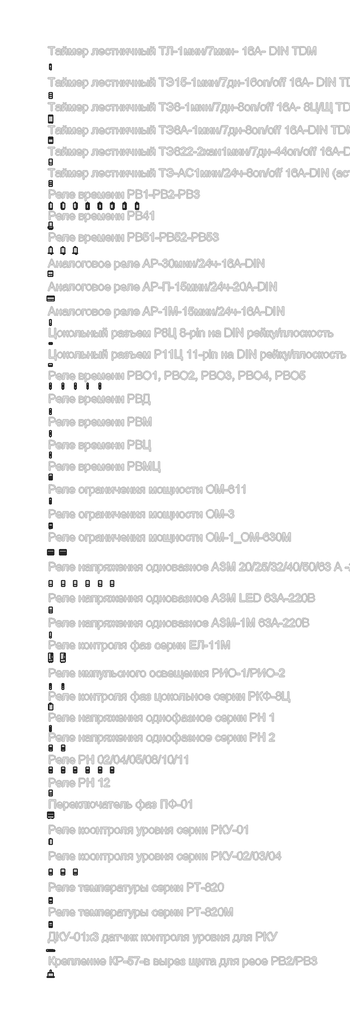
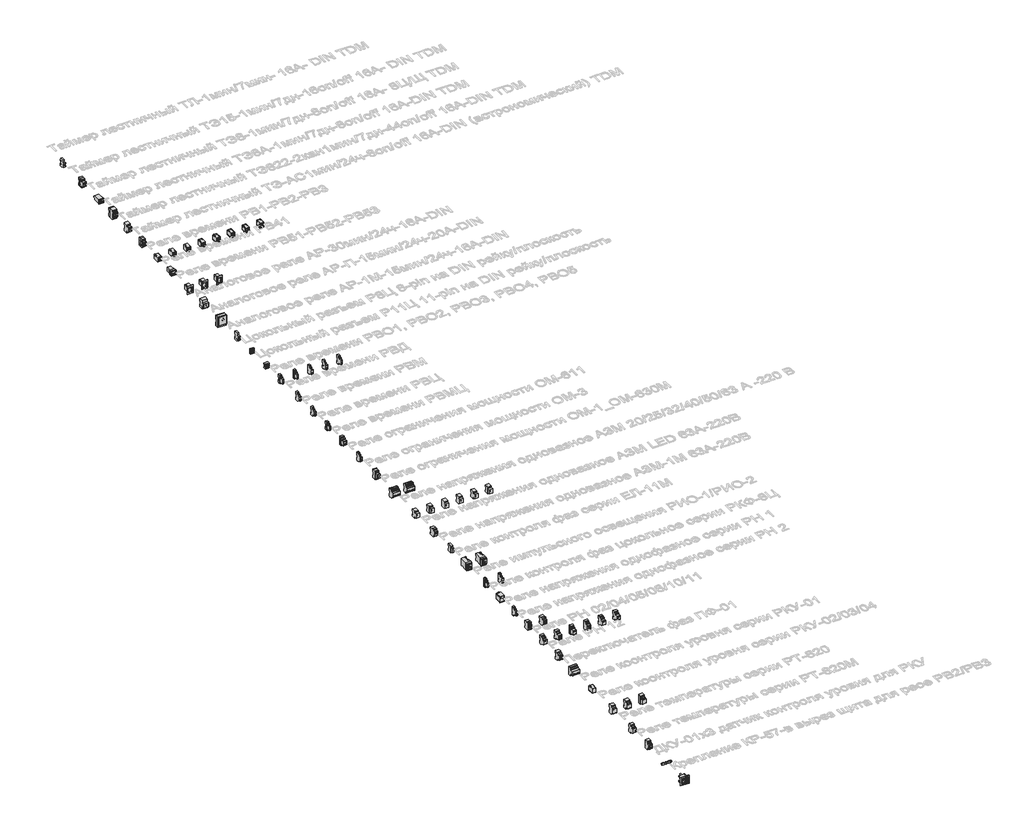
# One storey, part 1 of 34: 68 proxies.
"""IFC4 building model written with IfcOpenShell, lengths in millimetres."""

from ifc_helpers import new_model, si_unit, origin, place, context, project, spatial, transform, mapped, element, save
from components import electrical_equipment_74a98d71, electrical_equipment_58bb5a1a, electrical_equipment_3ce51de6, electrical_equipment_21c6b45f, electrical_equipment_c476cc4e, electrical_equipment_de6e29d4, electrical_equipment_126dbba9, electrical_equipment_08aeb7cd, electrical_equipment_bfa7a710, electrical_equipment_4113cb17, electrical_equipment_c9d6e839, electrical_equipment_f1d633d0, electrical_equipment_dc27a591, electrical_equipment_d9e2468f, electrical_equipment_b765c095, electrical_equipment_60f263af, electrical_equipment_a8593c03, electrical_equipment_917988b0, electrical_equipment_2618eebc, electrical_equipment_f3651a05, electrical_equipment_9e60928d, electrical_equipment_1063454b, electrical_equipment_ff696aed, electrical_equipment_52fcec72, electrical_equipment_77e1bf72, electrical_equipment_0d89e3ab, electrical_equipment_bae947ff, electrical_equipment_3d8fc4e4, electrical_equipment_8167011e, electrical_equipment_303be9ae, electrical_equipment_389d0776, electrical_equipment_ac6f2588, electrical_equipment_624e8b7a, proxy_11_pin_c977f3df, proxy_11_pin_421f2a57, proxy_16a_e966da29, proxy_16a_c5acf722, proxy_16a_1f5f70fe, proxy_16a_57aace03, proxy_16a_1d34f174, proxy_16a_368d971a, proxy_20a_6020814e, proxy_8_pin_44236fb1

model = new_model("IFC4")

# Units and contexts
model_context = context("Model", 3, world=origin())
ifc_project = project(units=[si_unit("LENGTHUNIT", "METRE", prefix="MILLI")], contexts=[model_context])

# Site, building, storey
site = spatial("IfcSite", under=ifc_project)
building = spatial("IfcBuilding", under=site)
storey = spatial("IfcBuildingStorey", under=building, Name="Этаж 01", Elevation=0.0)

# Proxies
placement = place(None, origin())
electrical_equipment_shape = electrical_equipment_74a98d71(model_context)
element("IfcBuildingElementProxy", 1, Name="TDM_ТАЙМЕР ЭЛЕКТРОННЫЕ ДВУХКАНАЛЬНЫЙ ТЭ822 : 2х16A", ObjectType="TDM_ТАЙМЕР ЭЛЕКТРОННЫЕ ДВУХКАНАЛЬНЫЙ ТЭ822 : 2х16A", at=placement, inside=storey, context=model_context, shape_type="MappedRepresentation", body=[
    mapped(electrical_equipment_shape, transform((-19020.4530788, 17233.1160902, 0.0), x_axis=(1.0, 0.0, 0.0), y_axis=(0.0, 1.0, 0.0), z_axis=(0.0, 0.0, 1.0))),
])
electrical_equipment_2_shape = electrical_equipment_58bb5a1a(model_context)
element("IfcBuildingElementProxy", 2, Name="TDM_РЕЛЕ ВРЕМЕНИ ЦОКОЛЬНЫЙ СЕРИИ РВ1-РВ2-РВ3 : РВ1А-2 реж-1сек/10 мин -5 А-220 В-8Ц", ObjectType="TDM_РЕЛЕ ВРЕМЕНИ ЦОКОЛЬНЫЙ СЕРИИ РВ1-РВ2-РВ3 : РВ1А-2 реж-1сек/10 мин -5 А-220 В-8Ц", at=placement, inside=storey, context=model_context, shape_type="MappedRepresentation", body=[
    mapped(electrical_equipment_2_shape, transform((-19020.4530788, 16703.2738798, 0.0), x_axis=(1.0, 0.0, 0.0), y_axis=(0.0, 1.0, 0.0), z_axis=(0.0, 0.0, 1.0))),
])
element("IfcBuildingElementProxy", 3, Name="TDM_РЕЛЕ ВРЕМЕНИ ЦОКОЛЬНЫЙ СЕРИИ РВ1-РВ2-РВ3 : РВ1С-2 реж-6сек/60 мин -5 А-220 В-8Ц", ObjectType="TDM_РЕЛЕ ВРЕМЕНИ ЦОКОЛЬНЫЙ СЕРИИ РВ1-РВ2-РВ3 : РВ1С-2 реж-6сек/60 мин -5 А-220 В-8Ц", at=placement, inside=storey, context=model_context, shape_type="MappedRepresentation", body=[
    mapped(electrical_equipment_2_shape, transform((-18720.4530788, 16703.2738798, 0.0), x_axis=(1.0, 0.0, 0.0), y_axis=(0.0, 1.0, 0.0), z_axis=(0.0, 0.0, 1.0))),
])
element("IfcBuildingElementProxy", 4, Name="TDM_РЕЛЕ ВРЕМЕНИ ЦОКОЛЬНЫЙ СЕРИИ РВ1-РВ2-РВ3 : РВ1Е-2 реж-3сек/30 мин -5 А-220 В-8Ц", ObjectType="TDM_РЕЛЕ ВРЕМЕНИ ЦОКОЛЬНЫЙ СЕРИИ РВ1-РВ2-РВ3 : РВ1Е-2 реж-3сек/30 мин -5 А-220 В-8Ц", at=placement, inside=storey, context=model_context, shape_type="MappedRepresentation", body=[
    mapped(electrical_equipment_2_shape, transform((-18870.4530788, 16703.2738798, 0.0), x_axis=(1.0, 0.0, 0.0), y_axis=(0.0, 1.0, 0.0), z_axis=(0.0, 0.0, 1.0))),
])
electrical_equipment_3_shape = electrical_equipment_3ce51de6(model_context)
element("IfcBuildingElementProxy", 5, Name="TDM_РЕЛЕ ВРЕМЕНИ ЦОКОЛЬНЫЙ СЕРИИ РВ1-РВ2-РВ3 : РВ2А-0.5 сек/3 мин -5 А-220 В-8Ц", ObjectType="TDM_РЕЛЕ ВРЕМЕНИ ЦОКОЛЬНЫЙ СЕРИИ РВ1-РВ2-РВ3 : РВ2А-0.5 сек/3 мин -5 А-220 В-8Ц", at=placement, inside=storey, context=model_context, shape_type="MappedRepresentation", body=[
    mapped(electrical_equipment_3_shape, transform((-18270.4530788, 16703.2738798, 0.0), x_axis=(1.0, 0.0, 0.0), y_axis=(0.0, 1.0, 0.0), z_axis=(0.0, 0.0, 1.0))),
])
element("IfcBuildingElementProxy", 6, Name="TDM_РЕЛЕ ВРЕМЕНИ ЦОКОЛЬНЫЙ СЕРИИ РВ1-РВ2-РВ3 : РВ2D-10 сек/60 мин -5 А-220 В-8Ц", ObjectType="TDM_РЕЛЕ ВРЕМЕНИ ЦОКОЛЬНЫЙ СЕРИИ РВ1-РВ2-РВ3 : РВ2D-10 сек/60 мин -5 А-220 В-8Ц", at=placement, inside=storey, context=model_context, shape_type="MappedRepresentation", body=[
    mapped(electrical_equipment_3_shape, transform((-18570.4530788, 16703.2738798, 0.0), x_axis=(1.0, 0.0, 0.0), y_axis=(0.0, 1.0, 0.0), z_axis=(0.0, 0.0, 1.0))),
])
element("IfcBuildingElementProxy", 7, Name="TDM_РЕЛЕ ВРЕМЕНИ ЦОКОЛЬНЫЙ СЕРИИ РВ1-РВ2-РВ3 : РВ2G-4 мин/24 час -5 А-220 В-8Ц", ObjectType="TDM_РЕЛЕ ВРЕМЕНИ ЦОКОЛЬНЫЙ СЕРИИ РВ1-РВ2-РВ3 : РВ2G-4 мин/24 час -5 А-220 В-8Ц", at=placement, inside=storey, context=model_context, shape_type="MappedRepresentation", body=[
    mapped(electrical_equipment_3_shape, transform((-18420.4530788, 16703.2738798, 0.0), x_axis=(1.0, 0.0, 0.0), y_axis=(0.0, 1.0, 0.0), z_axis=(0.0, 0.0, 1.0))),
])
element("IfcBuildingElementProxy", 8, Name="TDM_РЕЛЕ ВРЕМЕНИ ЦОКОЛЬНЫЙ СЕРИИ РВ1-РВ2-РВ3 : РВ3А-0.5 сек/3 мин -5 А-24/220 В-8Ц", ObjectType="TDM_РЕЛЕ ВРЕМЕНИ ЦОКОЛЬНЫЙ СЕРИИ РВ1-РВ2-РВ3 : РВ3А-0.5 сек/3 мин -5 А-24/220 В-8Ц", at=placement, inside=storey, context=model_context, shape_type="MappedRepresentation", body=[
    mapped(electrical_equipment_3_shape, transform((-17970.4530788, 16703.2738798, 0.0), x_axis=(1.0, 0.0, 0.0), y_axis=(0.0, 1.0, 0.0), z_axis=(0.0, 0.0, 1.0))),
])
element("IfcBuildingElementProxy", 9, Name="TDM_РЕЛЕ ВРЕМЕНИ ЦОКОЛЬНЫЙ СЕРИИ РВ1-РВ2-РВ3 : РВ3G-4 мин/24 час -5 А-24/220 В-8Ц", ObjectType="TDM_РЕЛЕ ВРЕМЕНИ ЦОКОЛЬНЫЙ СЕРИИ РВ1-РВ2-РВ3 : РВ3G-4 мин/24 час -5 А-24/220 В-8Ц", at=placement, inside=storey, context=model_context, shape_type="MappedRepresentation", body=[
    mapped(electrical_equipment_3_shape, transform((-18120.4530788, 16703.2738798, 0.0), x_axis=(1.0, 0.0, 0.0), y_axis=(0.0, 1.0, 0.0), z_axis=(0.0, 0.0, 1.0))),
])
electrical_equipment_4_shape = electrical_equipment_21c6b45f(model_context)
element("IfcBuildingElementProxy", 10, Name="TDM_РЕЛЕ ВРЕМЕНИ ЦОКОЛЬНЫЙ СЕРИИ РВ41 : РВ41-0.1-сек/9990 час -5 А-220 В-8Ц/Щ", ObjectType="TDM_РЕЛЕ ВРЕМЕНИ ЦОКОЛЬНЫЙ СЕРИИ РВ41 : РВ41-0.1-сек/9990 час -5 А-220 В-8Ц/Щ", at=placement, inside=storey, context=model_context, shape_type="MappedRepresentation", body=[
    mapped(electrical_equipment_4_shape, transform((-19020.4530788, 16469.8594848, 0.0), x_axis=(1.0, 0.0, 0.0), y_axis=(0.0, 1.0, 0.0), z_axis=(0.0, 0.0, 1.0))),
])
electrical_equipment_5_shape = electrical_equipment_c476cc4e(model_context)
element("IfcBuildingElementProxy", 11, Name="TDM_РЕЛЕ ВРЕМЕНИ ЦОКОЛЬНЫЙ СЕРИИ РВ51-РВ52-РВ53 : РВ51-2Т-60х60 сек -5 А-220 В-8Ц/Щ", ObjectType="TDM_РЕЛЕ ВРЕМЕНИ ЦОКОЛЬНЫЙ СЕРИИ РВ51-РВ52-РВ53 : РВ51-2Т-60х60 сек -5 А-220 В-8Ц/Щ", at=placement, inside=storey, context=model_context, shape_type="MappedRepresentation", body=[
    mapped(electrical_equipment_5_shape, transform((-19020.4530788, 16163.2516151, 0.0), x_axis=(1.0, 0.0, 0.0), y_axis=(0.0, 1.0, 0.0), z_axis=(0.0, 0.0, 1.0))),
])
element("IfcBuildingElementProxy", 12, Name="TDM_РЕЛЕ ВРЕМЕНИ ЦОКОЛЬНЫЙ СЕРИИ РВ51-РВ52-РВ53 : РВ52-2Т-6х6 мин -5 А-220 В-8Ц/Щ", ObjectType="TDM_РЕЛЕ ВРЕМЕНИ ЦОКОЛЬНЫЙ СЕРИИ РВ51-РВ52-РВ53 : РВ52-2Т-6х6 мин -5 А-220 В-8Ц/Щ", at=placement, inside=storey, context=model_context, shape_type="MappedRepresentation", body=[
    mapped(electrical_equipment_5_shape, transform((-18870.4530788, 16163.2516151, 0.0), x_axis=(1.0, 0.0, 0.0), y_axis=(0.0, 1.0, 0.0), z_axis=(0.0, 0.0, 1.0))),
])
element("IfcBuildingElementProxy", 13, Name="TDM_РЕЛЕ ВРЕМЕНИ ЦОКОЛЬНЫЙ СЕРИИ РВ51-РВ52-РВ53 : РВ53-2Т-60х60 мин -5 А-220 В-8Ц/Щ", ObjectType="TDM_РЕЛЕ ВРЕМЕНИ ЦОКОЛЬНЫЙ СЕРИИ РВ51-РВ52-РВ53 : РВ53-2Т-60х60 мин -5 А-220 В-8Ц/Щ", at=placement, inside=storey, context=model_context, shape_type="MappedRepresentation", body=[
    mapped(electrical_equipment_5_shape, transform((-18720.4530788, 16163.2516151, 0.0), x_axis=(1.0, 0.0, 0.0), y_axis=(0.0, 1.0, 0.0), z_axis=(0.0, 0.0, 1.0))),
])
electrical_equipment_6_shape = electrical_equipment_de6e29d4(model_context)
element("IfcBuildingElementProxy", 14, Name="TDM_РЕЛЕ ВРЕМЕНИ НА DIN-РЕЙКУ СЕРИИ РВО1_РВО2_РВО3_РВО4_РВО5 : РВО1 0.1с/10дн 8А 12-230 AC/DC", ObjectType="TDM_РЕЛЕ ВРЕМЕНИ НА DIN-РЕЙКУ СЕРИИ РВО1_РВО2_РВО3_РВО4_РВО5 : РВО1 0.1с/10дн 8А 12-230 AC/DC", at=placement, inside=storey, context=model_context, shape_type="MappedRepresentation", body=[
    mapped(electrical_equipment_6_shape, transform((-19020.4530788, 14510.2851267, 0.0), x_axis=(1.0, 0.0, 0.0), y_axis=(0.0, 1.0, 0.0), z_axis=(0.0, 0.0, 1.0))),
])
electrical_equipment_7_shape = electrical_equipment_126dbba9(model_context)
element("IfcBuildingElementProxy", 15, Name="TDM_РЕЛЕ ВРЕМЕНИ НА DIN-РЕЙКУ СЕРИИ РВО1_РВО2_РВО3_РВО4_РВО5 : РВО2 0.6с/60сек 8А 24/230 AC/DC", ObjectType="TDM_РЕЛЕ ВРЕМЕНИ НА DIN-РЕЙКУ СЕРИИ РВО1_РВО2_РВО3_РВО4_РВО5 : РВО2 0.6с/60сек 8А 24/230 AC/DC", at=placement, inside=storey, context=model_context, shape_type="MappedRepresentation", body=[
    mapped(electrical_equipment_7_shape, transform((-18870.4530788, 14510.2851267, 0.0), x_axis=(1.0, 0.0, 0.0), y_axis=(0.0, 1.0, 0.0), z_axis=(0.0, 0.0, 1.0))),
])
element("IfcBuildingElementProxy", 16, Name="TDM_РЕЛЕ ВРЕМЕНИ НА DIN-РЕЙКУ СЕРИИ РВО1_РВО2_РВО3_РВО4_РВО5 : РВО3 0.1с/10дн 8А 24/230 AC/DC", ObjectType="TDM_РЕЛЕ ВРЕМЕНИ НА DIN-РЕЙКУ СЕРИИ РВО1_РВО2_РВО3_РВО4_РВО5 : РВО3 0.1с/10дн 8А 24/230 AC/DC", at=placement, inside=storey, context=model_context, shape_type="MappedRepresentation", body=[
    mapped(electrical_equipment_6_shape, transform((-18720.4530788, 14510.2851267, 0.0), x_axis=(1.0, 0.0, 0.0), y_axis=(0.0, 1.0, 0.0), z_axis=(0.0, 0.0, 1.0))),
])
element("IfcBuildingElementProxy", 17, Name="TDM_РЕЛЕ ВРЕМЕНИ НА DIN-РЕЙКУ СЕРИИ РВО1_РВО2_РВО3_РВО4_РВО5 : РВО4 0.1с/10мин 8А 24-230 AC/DC", ObjectType="TDM_РЕЛЕ ВРЕМЕНИ НА DIN-РЕЙКУ СЕРИИ РВО1_РВО2_РВО3_РВО4_РВО5 : РВО4 0.1с/10мин 8А 24-230 AC/DC", at=placement, inside=storey, context=model_context, shape_type="MappedRepresentation", body=[
    mapped(electrical_equipment_6_shape, transform((-18570.4530788, 14510.2851267, 0.0), x_axis=(1.0, 0.0, 0.0), y_axis=(0.0, 1.0, 0.0), z_axis=(0.0, 0.0, 1.0))),
])
element("IfcBuildingElementProxy", 18, Name="TDM_РЕЛЕ ВРЕМЕНИ НА DIN-РЕЙКУ СЕРИИ РВО1_РВО2_РВО3_РВО4_РВО5 : РВО5 0.1с/10дн 8А 230 AC", ObjectType="TDM_РЕЛЕ ВРЕМЕНИ НА DIN-РЕЙКУ СЕРИИ РВО1_РВО2_РВО3_РВО4_РВО5 : РВО5 0.1с/10дн 8А 230 AC", at=placement, inside=storey, context=model_context, shape_type="MappedRepresentation", body=[
    mapped(electrical_equipment_6_shape, transform((-18420.4530788, 14510.2851267, 0.0), x_axis=(1.0, 0.0, 0.0), y_axis=(0.0, 1.0, 0.0), z_axis=(0.0, 0.0, 1.0))),
])
element("IfcBuildingElementProxy", 19, Name="TDM_РЕЛЕ ВРЕМЕНИ НА DIN-РЕЙКУ СЕРИИ РВД : РВД 0.1с/10мин 2х8А 24-230 AC/CD", ObjectType="TDM_РЕЛЕ ВРЕМЕНИ НА DIN-РЕЙКУ СЕРИИ РВД : РВД 0.1с/10мин 2х8А 24-230 AC/CD", at=placement, inside=storey, context=model_context, shape_type="MappedRepresentation", body=[
    mapped(electrical_equipment_6_shape, transform((-19020.4530788, 14202.621718, 0.0), x_axis=(1.0, 0.0, 0.0), y_axis=(0.0, 1.0, 0.0), z_axis=(0.0, 0.0, 1.0))),
])
electrical_equipment_8_shape = electrical_equipment_08aeb7cd(model_context)
element("IfcBuildingElementProxy", 20, Name="TDM_РЕЛЕ ВРЕМЕНИ НА DIN-РЕЙКУ СЕРИИ РВМ : РВМ 0.1с/10дн 8А 12-230 AC", ObjectType="TDM_РЕЛЕ ВРЕМЕНИ НА DIN-РЕЙКУ СЕРИИ РВМ : РВМ 0.1с/10дн 8А 12-230 AC", at=placement, inside=storey, context=model_context, shape_type="MappedRepresentation", body=[
    mapped(electrical_equipment_8_shape, transform((-19020.4530788, 13934.4473739, 0.0), x_axis=(1.0, 0.0, 0.0), y_axis=(0.0, 1.0, 0.0), z_axis=(0.0, 0.0, 1.0))),
])
electrical_equipment_9_shape = electrical_equipment_bfa7a710(model_context)
element("IfcBuildingElementProxy", 21, Name="TDM_РЕЛЕ ВРЕМЕНИ НА DIN-РЕЙКУ СЕРИИ РВЦ : РВЦ 0.1с/100дн 8А 230 AC", ObjectType="TDM_РЕЛЕ ВРЕМЕНИ НА DIN-РЕЙКУ СЕРИИ РВЦ : РВЦ 0.1с/100дн 8А 230 AC", at=placement, inside=storey, context=model_context, shape_type="MappedRepresentation", body=[
    mapped(electrical_equipment_9_shape, transform((-19020.4530788, 13674.5584592, 0.0), x_axis=(1.0, 0.0, 0.0), y_axis=(0.0, 1.0, 0.0), z_axis=(0.0, 0.0, 1.0))),
])
electrical_equipment_10_shape = electrical_equipment_4113cb17(model_context)
element("IfcBuildingElementProxy", 22, Name="TDM_РЕЛЕ ВРЕМЕНИ НА DIN-РЕЙКУ СЕРИИ РВМЦ : РВМЦ 0.1с/100час 2х8А 24-230 AC/CD", ObjectType="TDM_РЕЛЕ ВРЕМЕНИ НА DIN-РЕЙКУ СЕРИИ РВМЦ : РВМЦ 0.1с/100час 2х8А 24-230 AC/CD", at=placement, inside=storey, context=model_context, shape_type="MappedRepresentation", body=[
    mapped(electrical_equipment_10_shape, transform((-19020.4530788, 13409.9178125, 0.0), x_axis=(1.0, 0.0, 0.0), y_axis=(0.0, 1.0, 0.0), z_axis=(0.0, 0.0, 1.0))),
])
electrical_equipment_11_shape = electrical_equipment_c9d6e839(model_context)
element("IfcBuildingElementProxy", 23, Name="TDM_ОГРАНИЧИТЕЛЬ МОЩНОСТИ СЕРИИ ОМ-611 : Диапазон 0.5-5кВА", ObjectType="TDM_ОГРАНИЧИТЕЛЬ МОЩНОСТИ СЕРИИ ОМ-611 : Диапазон 0.5-5кВА", at=placement, inside=storey, context=model_context, shape_type="MappedRepresentation", body=[
    mapped(electrical_equipment_11_shape, transform((-19020.4530788, 13118.0031732, 0.0), x_axis=(1.0, 0.0, 0.0), y_axis=(0.0, 1.0, 0.0), z_axis=(0.0, 0.0, 1.0))),
])
electrical_equipment_12_shape = electrical_equipment_f1d633d0(model_context)
element("IfcBuildingElementProxy", 24, Name="TDM_ОГРАНИЧИТЕЛЬ МОЩНОСТИ СЕРИИ ОМ-3 : Диапазон 0.5-5кВА", ObjectType="TDM_ОГРАНИЧИТЕЛЬ МОЩНОСТИ СЕРИИ ОМ-3 : Диапазон 0.5-5кВА", at=placement, inside=storey, context=model_context, shape_type="MappedRepresentation", body=[
    mapped(electrical_equipment_12_shape, transform((-19020.4530788, 12815.8214807, 0.0), x_axis=(1.0, 0.0, 0.0), y_axis=(0.0, 1.0, 0.0), z_axis=(0.0, 0.0, 1.0))),
])
electrical_equipment_13_shape = electrical_equipment_dc27a591(model_context)
element("IfcBuildingElementProxy", 25, Name="TDM_ОГРАНИЧИТЕЛЬ МОЩНОСТИ СЕРИИ ОМ-1_ОМ-630М : Диапазон 3-30кВА", ObjectType="TDM_ОГРАНИЧИТЕЛЬ МОЩНОСТИ СЕРИИ ОМ-1_ОМ-630М : Диапазон 3-30кВА", at=placement, inside=storey, context=model_context, shape_type="MappedRepresentation", body=[
    mapped(electrical_equipment_13_shape, transform((-19020.4530788, 12490.8806837, 0.0), x_axis=(1.0, 0.0, 0.0), y_axis=(0.0, 1.0, 0.0), z_axis=(0.0, 0.0, 1.0))),
])
element("IfcBuildingElementProxy", 26, Name="TDM_ОГРАНИЧИТЕЛЬ МОЩНОСТИ СЕРИИ ОМ-1_ОМ-630М : Диапазон 5-50кВА", ObjectType="TDM_ОГРАНИЧИТЕЛЬ МОЩНОСТИ СЕРИИ ОМ-1_ОМ-630М : Диапазон 5-50кВА", at=placement, inside=storey, context=model_context, shape_type="MappedRepresentation", body=[
    mapped(electrical_equipment_13_shape, transform((-18870.4530788, 12490.8806837, 0.0), x_axis=(1.0, 0.0, 0.0), y_axis=(0.0, 1.0, 0.0), z_axis=(0.0, 0.0, 1.0))),
])
electrical_equipment_14_shape = electrical_equipment_d9e2468f(model_context)
element("IfcBuildingElementProxy", 27, Name="TDM_РЕЛЕ КОНТРОЛЯ НАПРЯЖЕНИЯ СЕРИИ АЗМ : 20А", ObjectType="TDM_РЕЛЕ КОНТРОЛЯ НАПРЯЖЕНИЯ СЕРИИ АЗМ : 20А", at=placement, inside=storey, context=model_context, shape_type="MappedRepresentation", body=[
    mapped(electrical_equipment_14_shape, transform((-19020.4530788, 12115.6525517, 0.0), x_axis=(1.0, 0.0, 0.0), y_axis=(0.0, 1.0, 0.0), z_axis=(0.0, 0.0, 1.0))),
])
element("IfcBuildingElementProxy", 28, Name="TDM_РЕЛЕ КОНТРОЛЯ НАПРЯЖЕНИЯ СЕРИИ АЗМ : 25А", ObjectType="TDM_РЕЛЕ КОНТРОЛЯ НАПРЯЖЕНИЯ СЕРИИ АЗМ : 25А", at=placement, inside=storey, context=model_context, shape_type="MappedRepresentation", body=[
    mapped(electrical_equipment_14_shape, transform((-18870.4530788, 12115.6525517, 0.0), x_axis=(1.0, 0.0, 0.0), y_axis=(0.0, 1.0, 0.0), z_axis=(0.0, 0.0, 1.0))),
])
element("IfcBuildingElementProxy", 29, Name="TDM_РЕЛЕ КОНТРОЛЯ НАПРЯЖЕНИЯ СЕРИИ АЗМ : 32А", ObjectType="TDM_РЕЛЕ КОНТРОЛЯ НАПРЯЖЕНИЯ СЕРИИ АЗМ : 32А", at=placement, inside=storey, context=model_context, shape_type="MappedRepresentation", body=[
    mapped(electrical_equipment_14_shape, transform((-18720.4530788, 12115.6525517, 0.0), x_axis=(1.0, 0.0, 0.0), y_axis=(0.0, 1.0, 0.0), z_axis=(0.0, 0.0, 1.0))),
])
element("IfcBuildingElementProxy", 30, Name="TDM_РЕЛЕ КОНТРОЛЯ НАПРЯЖЕНИЯ СЕРИИ АЗМ : 40А", ObjectType="TDM_РЕЛЕ КОНТРОЛЯ НАПРЯЖЕНИЯ СЕРИИ АЗМ : 40А", at=placement, inside=storey, context=model_context, shape_type="MappedRepresentation", body=[
    mapped(electrical_equipment_14_shape, transform((-18570.4530788, 12115.6525517, 0.0), x_axis=(1.0, 0.0, 0.0), y_axis=(0.0, 1.0, 0.0), z_axis=(0.0, 0.0, 1.0))),
])
element("IfcBuildingElementProxy", 31, Name="TDM_РЕЛЕ КОНТРОЛЯ НАПРЯЖЕНИЯ СЕРИИ АЗМ : 50А", ObjectType="TDM_РЕЛЕ КОНТРОЛЯ НАПРЯЖЕНИЯ СЕРИИ АЗМ : 50А", at=placement, inside=storey, context=model_context, shape_type="MappedRepresentation", body=[
    mapped(electrical_equipment_14_shape, transform((-18420.4530788, 12115.6525517, 0.0), x_axis=(1.0, 0.0, 0.0), y_axis=(0.0, 1.0, 0.0), z_axis=(0.0, 0.0, 1.0))),
])
element("IfcBuildingElementProxy", 32, Name="TDM_РЕЛЕ КОНТРОЛЯ НАПРЯЖЕНИЯ СЕРИИ АЗМ : 63А", ObjectType="TDM_РЕЛЕ КОНТРОЛЯ НАПРЯЖЕНИЯ СЕРИИ АЗМ : 63А", at=placement, inside=storey, context=model_context, shape_type="MappedRepresentation", body=[
    mapped(electrical_equipment_14_shape, transform((-18270.4530788, 12115.6525517, 0.0), x_axis=(1.0, 0.0, 0.0), y_axis=(0.0, 1.0, 0.0), z_axis=(0.0, 0.0, 1.0))),
])
electrical_equipment_15_shape = electrical_equipment_b765c095(model_context)
element("IfcBuildingElementProxy", 33, Name="TDM_РЕЛЕ КОНТРОЛЯ НАПРЯЖЕНИЯ СЕРИИ АЗМ LED : 63А", ObjectType="TDM_РЕЛЕ КОНТРОЛЯ НАПРЯЖЕНИЯ СЕРИИ АЗМ LED : 63А", at=placement, inside=storey, context=model_context, shape_type="MappedRepresentation", body=[
    mapped(electrical_equipment_15_shape, transform((-19020.4530788, 11794.1775481, 0.0), x_axis=(1.0, 0.0, 0.0), y_axis=(0.0, 1.0, 0.0), z_axis=(0.0, 0.0, 1.0))),
])
electrical_equipment_16_shape = electrical_equipment_60f263af(model_context)
element("IfcBuildingElementProxy", 34, Name="TDM_РЕЛЕ КОНТРОЛЯ НАПРЯЖЕНИЯ СЕРИИ АЗМ-1М : 63А", ObjectType="TDM_РЕЛЕ КОНТРОЛЯ НАПРЯЖЕНИЯ СЕРИИ АЗМ-1М : 63А", at=placement, inside=storey, context=model_context, shape_type="MappedRepresentation", body=[
    mapped(electrical_equipment_16_shape, transform((-19020.4530788, 11490.8646255, 0.0), x_axis=(1.0, 0.0, 0.0), y_axis=(0.0, 1.0, 0.0), z_axis=(0.0, 0.0, 1.0))),
])
electrical_equipment_17_shape = electrical_equipment_a8593c03(model_context)
element("IfcBuildingElementProxy", 35, Name="TDM_РЕЛЕ КОНТРОЛЯ ФАЗ СЕРИИ ЕЛ-11М : 3х380 В (1п-контакт)", ObjectType="TDM_РЕЛЕ КОНТРОЛЯ ФАЗ СЕРИИ ЕЛ-11М : 3х380 В (1п-контакт)", at=placement, inside=storey, context=model_context, shape_type="MappedRepresentation", body=[
    mapped(electrical_equipment_17_shape, transform((-19020.4530788, 11224.1708732, 0.0), x_axis=(1.0, 0.0, 0.0), y_axis=(0.0, 1.0, 0.0), z_axis=(0.0, 0.0, 1.0))),
])
element("IfcBuildingElementProxy", 36, Name="TDM_РЕЛЕ КОНТРОЛЯ ФАЗ СЕРИИ ЕЛ-11М : 3х380 В (1нр+1нз-контакты)", ObjectType="TDM_РЕЛЕ КОНТРОЛЯ ФАЗ СЕРИИ ЕЛ-11М : 3х380 В (1нр+1нз-контакты)", at=placement, inside=storey, context=model_context, shape_type="MappedRepresentation", body=[
    mapped(electrical_equipment_17_shape, transform((-18870.4530788, 11224.1708732, 0.0), x_axis=(1.0, 0.0, 0.0), y_axis=(0.0, 1.0, 0.0), z_axis=(0.0, 0.0, 1.0))),
])
electrical_equipment_18_shape = electrical_equipment_917988b0(model_context)
element("IfcBuildingElementProxy", 37, Name="TDM_РЕЛЕ ИМПУЛЬСНОЕ (ОСВЕЩЕНИЕ) РИО : РИО-1 10А", ObjectType="TDM_РЕЛЕ ИМПУЛЬСНОЕ (ОСВЕЩЕНИЕ) РИО : РИО-1 10А", at=placement, inside=storey, context=model_context, shape_type="MappedRepresentation", body=[
    mapped(electrical_equipment_18_shape, transform((-19020.4530788, 10866.4471749, 0.0), x_axis=(1.0, 0.0, 0.0), y_axis=(0.0, 1.0, 0.0), z_axis=(0.0, 0.0, 1.0))),
])
electrical_equipment_19_shape = electrical_equipment_2618eebc(model_context)
element("IfcBuildingElementProxy", 38, Name="TDM_РЕЛЕ ИМПУЛЬСНОЕ (ОСВЕЩЕНИЕ) РИО : РИО-2 10А", ObjectType="TDM_РЕЛЕ ИМПУЛЬСНОЕ (ОСВЕЩЕНИЕ) РИО : РИО-2 10А", at=placement, inside=storey, context=model_context, shape_type="MappedRepresentation", body=[
    mapped(electrical_equipment_19_shape, transform((-18870.4530788, 10866.4471749, 0.0), x_axis=(1.0, 0.0, 0.0), y_axis=(0.0, 1.0, 0.0), z_axis=(0.0, 0.0, 1.0))),
])
electrical_equipment_20_shape = electrical_equipment_f3651a05(model_context)
element("IfcBuildingElementProxy", 39, Name="TDM_РЕЛЕ КОНТРОЛЯ ФАЗ СЕРИИ РКФ-8Ц (ТРЕХФАЗНЫЕ) : Трехфазная трехпроводная", ObjectType="TDM_РЕЛЕ КОНТРОЛЯ ФАЗ СЕРИИ РКФ-8Ц (ТРЕХФАЗНЫЕ) : Трехфазная трехпроводная", at=placement, inside=storey, context=model_context, shape_type="MappedRepresentation", body=[
    mapped(electrical_equipment_20_shape, transform((-19020.4530788, 10625.4623257, 0.0), x_axis=(1.0, 0.0, 0.0), y_axis=(0.0, 1.0, 0.0), z_axis=(0.0, 0.0, 1.0))),
])
electrical_equipment_21_shape = electrical_equipment_9e60928d(model_context)
element("IfcBuildingElementProxy", 40, Name="TDM_РЕЛЕ КОНТРОЛЯ НАПРЯЖЕНИЯ СЕРИИ РН 1 : 5А", ObjectType="TDM_РЕЛЕ КОНТРОЛЯ НАПРЯЖЕНИЯ СЕРИИ РН 1 : 5А", at=placement, inside=storey, context=model_context, shape_type="MappedRepresentation", body=[
    mapped(electrical_equipment_21_shape, transform((-19020.4530788, 10358.8078879, 0.0), x_axis=(1.0, 0.0, 0.0), y_axis=(0.0, 1.0, 0.0), z_axis=(0.0, 0.0, 1.0))),
])
electrical_equipment_22_shape = electrical_equipment_1063454b(model_context)
element("IfcBuildingElementProxy", 41, Name="TDM_РЕЛЕ КОНТРОЛЯ НАПРЯЖЕНИЯ СЕРИИ РН 2 : 40А", ObjectType="TDM_РЕЛЕ КОНТРОЛЯ НАПРЯЖЕНИЯ СЕРИИ РН 2 : 40А", at=placement, inside=storey, context=model_context, shape_type="MappedRepresentation", body=[
    mapped(electrical_equipment_22_shape, transform((-19020.4530788, 10118.3349678, 0.0), x_axis=(1.0, 0.0, 0.0), y_axis=(0.0, 1.0, 0.0), z_axis=(0.0, 0.0, 1.0))),
])
element("IfcBuildingElementProxy", 42, Name="TDM_РЕЛЕ КОНТРОЛЯ НАПРЯЖЕНИЯ СЕРИИ РН 2 : 63А", ObjectType="TDM_РЕЛЕ КОНТРОЛЯ НАПРЯЖЕНИЯ СЕРИИ РН 2 : 63А", at=placement, inside=storey, context=model_context, shape_type="MappedRepresentation", body=[
    mapped(electrical_equipment_22_shape, transform((-18870.4530788, 10118.3349678, 0.0), x_axis=(1.0, 0.0, 0.0), y_axis=(0.0, 1.0, 0.0), z_axis=(0.0, 0.0, 1.0))),
])
electrical_equipment_23_shape = electrical_equipment_ff696aed(model_context)
element("IfcBuildingElementProxy", 43, Name="TDM_РЕЛЕ КОНТРОЛЯ НАПРЯЖЕНИЯ СЕРИИ РН 02_04_05_08_10_11 : РН 02-3х400 В", ObjectType="TDM_РЕЛЕ КОНТРОЛЯ НАПРЯЖЕНИЯ СЕРИИ РН 02_04_05_08_10_11 : РН 02-3х400 В", at=placement, inside=storey, context=model_context, shape_type="MappedRepresentation", body=[
    mapped(electrical_equipment_23_shape, transform((-19020.4530788, 9851.8810281, 0.0), x_axis=(1.0, 0.0, 0.0), y_axis=(0.0, 1.0, 0.0), z_axis=(0.0, 0.0, 1.0))),
])
electrical_equipment_24_shape = electrical_equipment_52fcec72(model_context)
element("IfcBuildingElementProxy", 44, Name="TDM_РЕЛЕ КОНТРОЛЯ НАПРЯЖЕНИЯ СЕРИИ РН 02_04_05_08_10_11 : РН 04-3х400/230 В", ObjectType="TDM_РЕЛЕ КОНТРОЛЯ НАПРЯЖЕНИЯ СЕРИИ РН 02_04_05_08_10_11 : РН 04-3х400/230 В", at=placement, inside=storey, context=model_context, shape_type="MappedRepresentation", body=[
    mapped(electrical_equipment_24_shape, transform((-18870.4530788, 9851.8810281, 0.0), x_axis=(1.0, 0.0, 0.0), y_axis=(0.0, 1.0, 0.0), z_axis=(0.0, 0.0, 1.0))),
])
element("IfcBuildingElementProxy", 45, Name="TDM_РЕЛЕ КОНТРОЛЯ НАПРЯЖЕНИЯ СЕРИИ РН 02_04_05_08_10_11 : РН 05-3х400/230 В", ObjectType="TDM_РЕЛЕ КОНТРОЛЯ НАПРЯЖЕНИЯ СЕРИИ РН 02_04_05_08_10_11 : РН 05-3х400/230 В", at=placement, inside=storey, context=model_context, shape_type="MappedRepresentation", body=[
    mapped(electrical_equipment_23_shape, transform((-18720.4530788, 9851.8810281, 0.0), x_axis=(1.0, 0.0, 0.0), y_axis=(0.0, 1.0, 0.0), z_axis=(0.0, 0.0, 1.0))),
])
element("IfcBuildingElementProxy", 46, Name="TDM_РЕЛЕ КОНТРОЛЯ НАПРЯЖЕНИЯ СЕРИИ РН 02_04_05_08_10_11 : РН 08 3х400 В", ObjectType="TDM_РЕЛЕ КОНТРОЛЯ НАПРЯЖЕНИЯ СЕРИИ РН 02_04_05_08_10_11 : РН 08 3х400 В", at=placement, inside=storey, context=model_context, shape_type="MappedRepresentation", body=[
    mapped(electrical_equipment_24_shape, transform((-18570.4530788, 9851.8810281, 0.0), x_axis=(1.0, 0.0, 0.0), y_axis=(0.0, 1.0, 0.0), z_axis=(0.0, 0.0, 1.0))),
])
element("IfcBuildingElementProxy", 47, Name="TDM_РЕЛЕ КОНТРОЛЯ НАПРЯЖЕНИЯ СЕРИИ РН 02_04_05_08_10_11 : РН 10-3х400/230 В", ObjectType="TDM_РЕЛЕ КОНТРОЛЯ НАПРЯЖЕНИЯ СЕРИИ РН 02_04_05_08_10_11 : РН 10-3х400/230 В", at=placement, inside=storey, context=model_context, shape_type="MappedRepresentation", body=[
    mapped(electrical_equipment_23_shape, transform((-18420.4530788, 9851.8810281, 0.0), x_axis=(1.0, 0.0, 0.0), y_axis=(0.0, 1.0, 0.0), z_axis=(0.0, 0.0, 1.0))),
])
electrical_equipment_25_shape = electrical_equipment_77e1bf72(model_context)
element("IfcBuildingElementProxy", 48, Name="TDM_РЕЛЕ КОНТРОЛЯ НАПРЯЖЕНИЯ СЕРИИ РН 02_04_05_08_10_11 : РН 11-3х400/230 В", ObjectType="TDM_РЕЛЕ КОНТРОЛЯ НАПРЯЖЕНИЯ СЕРИИ РН 02_04_05_08_10_11 : РН 11-3х400/230 В", at=placement, inside=storey, context=model_context, shape_type="MappedRepresentation", body=[
    mapped(electrical_equipment_25_shape, transform((-18270.4530788, 9851.8810281, 0.0), x_axis=(1.0, 0.0, 0.0), y_axis=(0.0, 1.0, 0.0), z_axis=(0.0, 0.0, 1.0))),
])
electrical_equipment_26_shape = electrical_equipment_0d89e3ab(model_context)
element("IfcBuildingElementProxy", 49, Name="TDM_РЕЛЕ КОНТРОЛЯ НАПРЯЖЕНИЯ СЕРИИ РН 12 : РН 12-3х400/240 В", ObjectType="TDM_РЕЛЕ КОНТРОЛЯ НАПРЯЖЕНИЯ СЕРИИ РН 12 : РН 12-3х400/240 В", at=placement, inside=storey, context=model_context, shape_type="MappedRepresentation", body=[
    mapped(electrical_equipment_26_shape, transform((-19020.4530788, 9572.7429934, 0.0), x_axis=(1.0, 0.0, 0.0), y_axis=(0.0, 1.0, 0.0), z_axis=(0.0, 0.0, 1.0))),
])
electrical_equipment_27_shape = electrical_equipment_bae947ff(model_context)
element("IfcBuildingElementProxy", 50, Name="TDM_ПЕРЕКЛЮЧАТЕЛЬ ФАЗ ПФ-01 : 3х16А", ObjectType="TDM_ПЕРЕКЛЮЧАТЕЛЬ ФАЗ ПФ-01 : 3х16А", at=placement, inside=storey, context=model_context, shape_type="MappedRepresentation", body=[
    mapped(electrical_equipment_27_shape, transform((-19020.4530788, 9305.3569435, 0.0), x_axis=(1.0, 0.0, 0.0), y_axis=(0.0, 1.0, 0.0), z_axis=(0.0, 0.0, 1.0))),
])
electrical_equipment_28_shape = electrical_equipment_3d8fc4e4(model_context)
element("IfcBuildingElementProxy", 51, Name="TDM_РЕЛЕ КОНТРОЛЯ УРОВНЯ СЕРИИ РКУ-01 : РКУ-01 230 В АС", ObjectType="TDM_РЕЛЕ КОНТРОЛЯ УРОВНЯ СЕРИИ РКУ-01 : РКУ-01 230 В АС", at=placement, inside=storey, context=model_context, shape_type="MappedRepresentation", body=[
    mapped(electrical_equipment_28_shape, transform((-19020.4530788, 8985.3764585, 0.0), x_axis=(1.0, 0.0, 0.0), y_axis=(0.0, 1.0, 0.0), z_axis=(0.0, 0.0, 1.0))),
])
electrical_equipment_29_shape = electrical_equipment_8167011e(model_context)
element("IfcBuildingElementProxy", 52, Name="TDM_РЕЛЕ КОНТРОЛЯ УРОВНЯ СЕРИИ РКУ-02_03_04 : РКУ-02 230/400 В АС", ObjectType="TDM_РЕЛЕ КОНТРОЛЯ УРОВНЯ СЕРИИ РКУ-02_03_04 : РКУ-02 230/400 В АС", at=placement, inside=storey, context=model_context, shape_type="MappedRepresentation", body=[
    mapped(electrical_equipment_29_shape, transform((-19020.4530788, 8613.9751119, 0.0), x_axis=(1.0, 0.0, 0.0), y_axis=(0.0, 1.0, 0.0), z_axis=(0.0, 0.0, 1.0))),
])
element("IfcBuildingElementProxy", 53, Name="TDM_РЕЛЕ КОНТРОЛЯ УРОВНЯ СЕРИИ РКУ-02_03_04 : РКУ-03 230/400 В АС", ObjectType="TDM_РЕЛЕ КОНТРОЛЯ УРОВНЯ СЕРИИ РКУ-02_03_04 : РКУ-03 230/400 В АС", at=placement, inside=storey, context=model_context, shape_type="MappedRepresentation", body=[
    mapped(electrical_equipment_29_shape, transform((-18870.4530788, 8613.9751119, 0.0), x_axis=(1.0, 0.0, 0.0), y_axis=(0.0, 1.0, 0.0), z_axis=(0.0, 0.0, 1.0))),
])
element("IfcBuildingElementProxy", 54, Name="TDM_РЕЛЕ КОНТРОЛЯ УРОВНЯ СЕРИИ РКУ-02_03_04 : РКУ-04 230/400 В АС", ObjectType="TDM_РЕЛЕ КОНТРОЛЯ УРОВНЯ СЕРИИ РКУ-02_03_04 : РКУ-04 230/400 В АС", at=placement, inside=storey, context=model_context, shape_type="MappedRepresentation", body=[
    mapped(electrical_equipment_29_shape, transform((-18720.4530788, 8613.9751119, 0.0), x_axis=(1.0, 0.0, 0.0), y_axis=(0.0, 1.0, 0.0), z_axis=(0.0, 0.0, 1.0))),
])
electrical_equipment_30_shape = electrical_equipment_303be9ae(model_context)
element("IfcBuildingElementProxy", 55, Name="TDM_РЕЛЕ ТЕМПЕРАТУРЫ СЕРИИ РТ-820 : 16А", ObjectType="TDM_РЕЛЕ ТЕМПЕРАТУРЫ СЕРИИ РТ-820 : 16А", at=placement, inside=storey, context=model_context, shape_type="MappedRepresentation", body=[
    mapped(electrical_equipment_30_shape, transform((-19020.4530788, 8268.7593207, 0.0), x_axis=(1.0, 0.0, 0.0), y_axis=(0.0, 1.0, 0.0), z_axis=(0.0, 0.0, 1.0))),
])
electrical_equipment_31_shape = electrical_equipment_389d0776(model_context)
element("IfcBuildingElementProxy", 56, Name="TDM_РЕЛЕ ТЕМПЕРАТУРЫ СЕРИИ РТ-820 М : 16А", ObjectType="TDM_РЕЛЕ ТЕМПЕРАТУРЫ СЕРИИ РТ-820 М : 16А", at=placement, inside=storey, context=model_context, shape_type="MappedRepresentation", body=[
    mapped(electrical_equipment_31_shape, transform((-19020.4530788, 7979.3061994, 0.0), x_axis=(1.0, 0.0, 0.0), y_axis=(0.0, 1.0, 0.0), z_axis=(0.0, 0.0, 1.0))),
])
electrical_equipment_32_shape = electrical_equipment_ac6f2588(model_context)
element("IfcBuildingElementProxy", 57, Name="TDM_ДАТЧИК КОНТРОЛЯ УРОВНЯ ДКУ-01 : ДКУ-01", ObjectType="TDM_ДАТЧИК КОНТРОЛЯ УРОВНЯ ДКУ-01 : ДКУ-01", at=placement, inside=storey, context=model_context, shape_type="MappedRepresentation", body=[
    mapped(electrical_equipment_32_shape, transform((-19020.4530788, 7665.8227084, 0.0), x_axis=(1.0, 0.0, 0.0), y_axis=(0.0, 1.0, 0.0), z_axis=(0.0, 0.0, 1.0))),
])
electrical_equipment_33_shape = electrical_equipment_624e8b7a(model_context)
element("IfcBuildingElementProxy", 58, Name="TDM_КРЕПЛЕНИЕ В ВЫРЕЗ ЩИТКА ДЛЯ РЕЛЕ РВ2_РВ3 : КР-57", ObjectType="TDM_КРЕПЛЕНИЕ В ВЫРЕЗ ЩИТКА ДЛЯ РЕЛЕ РВ2_РВ3 : КР-57", at=placement, inside=storey, context=model_context, shape_type="MappedRepresentation", body=[
    mapped(electrical_equipment_33_shape, transform((-19020.4530788, 7349.9678387, 0.0), x_axis=(1.0, 0.0, 0.0), y_axis=(0.0, 1.0, 0.0), z_axis=(0.0, 0.0, 1.0))),
])
proxy_11_pin_shape = proxy_11_pin_c977f3df(model_context)
proxy_11_pin_2_shape = proxy_11_pin_421f2a57(model_context)
element("IfcBuildingElementProxy", 59, Name="TDM_ЦОКОЛЬНЫЙ РАЗЪЕМ Р11Ц : 11-PIN", ObjectType="TDM_ЦОКОЛЬНЫЙ РАЗЪЕМ Р11Ц : 11-PIN", at=placement, inside=storey, context=model_context, shape_type="MappedRepresentation", body=[
    mapped(proxy_11_pin_shape, transform((-19020.4530788, 14775.256841, 0.0), x_axis=(1.0, 0.0, 0.0), y_axis=(0.0, 1.0, 0.0), z_axis=(0.0, 0.0, 1.0))),
    mapped(proxy_11_pin_2_shape, transform((-19020.4530788, 14775.256841, 0.0), x_axis=(1.0, 0.0, 0.0), y_axis=(0.0, 1.0, 0.0), z_axis=(0.0, 0.0, 1.0))),
])
proxy_16a_shape = proxy_16a_e966da29(model_context)
element("IfcBuildingElementProxy", 60, Name="TDM_ТАЙМЕР ЛЕСТНИЧНЫЙ СЕРИИ ТЛ : 16A", ObjectType="TDM_ТАЙМЕР ЛЕСТНИЧНЫЙ СЕРИИ ТЛ : 16A", at=placement, inside=storey, context=model_context, shape_type="MappedRepresentation", body=[
    mapped(proxy_16a_shape, transform((-19020.4530788, 18385.1762474, 0.0), x_axis=(1.0, 0.0, 0.0), y_axis=(0.0, 1.0, 0.0), z_axis=(0.0, 0.0, 1.0))),
])
proxy_16a_2_shape = proxy_16a_c5acf722(model_context)
element("IfcBuildingElementProxy", 61, Name="TDM_ЭЛЕКТРОННЫЙ ПРОГРАММИРУЕМЫЙ ТАЙМЕР СЕРИИ ТЭ15 : 16A", ObjectType="TDM_ЭЛЕКТРОННЫЙ ПРОГРАММИРУЕМЫЙ ТАЙМЕР СЕРИИ ТЭ15 : 16A", at=placement, inside=storey, context=model_context, shape_type="MappedRepresentation", body=[
    mapped(proxy_16a_2_shape, transform((-19020.4530788, 18039.9080935, 0.0), x_axis=(1.0, 0.0, 0.0), y_axis=(0.0, 1.0, 0.0), z_axis=(0.0, 0.0, 1.0))),
])
proxy_16a_3_shape = proxy_16a_1f5f70fe(model_context)
element("IfcBuildingElementProxy", 62, Name="TDM_ЭЛЕКТРОННЫЙ ПРОГРАММИРУЕМЫЙ ТАЙМЕР СЕРИИ ТЭ8 : 16A", ObjectType="TDM_ЭЛЕКТРОННЫЙ ПРОГРАММИРУЕМЫЙ ТАЙМЕР СЕРИИ ТЭ8 : 16A", at=placement, inside=storey, context=model_context, shape_type="MappedRepresentation", body=[
    mapped(proxy_16a_3_shape, transform((-19020.4530788, 17753.6984629, 0.0), x_axis=(1.0, 0.0, 0.0), y_axis=(0.0, 1.0, 0.0), z_axis=(0.0, 0.0, 1.0))),
])
proxy_16a_4_shape = proxy_16a_57aace03(model_context)
element("IfcBuildingElementProxy", 63, Name="TDM_ЭЛЕКТРОННЫЙ ПРОГРАММИРУЕМЫЙ ТАЙМЕР СЕРИИ ТЭ8А : 16A", ObjectType="TDM_ЭЛЕКТРОННЫЙ ПРОГРАММИРУЕМЫЙ ТАЙМЕР СЕРИИ ТЭ8А : 16A", at=placement, inside=storey, context=model_context, shape_type="MappedRepresentation", body=[
    mapped(proxy_16a_4_shape, transform((-19020.4530788, 17499.7569885, 0.0), x_axis=(1.0, 0.0, 0.0), y_axis=(0.0, 1.0, 0.0), z_axis=(0.0, 0.0, 1.0))),
])
element("IfcBuildingElementProxy", 64, Name="TDM_ТАЙМЕР ЭЛЕКТРОННЫЙ АСТРОНОМИЧЕСКИЙ СЕРИЙ ТЭ-АС : 16A", ObjectType="TDM_ТАЙМЕР ЭЛЕКТРОННЫЙ АСТРОНОМИЧЕСКИЙ СЕРИЙ ТЭ-АС : 16A", at=placement, inside=storey, context=model_context, shape_type="MappedRepresentation", body=[
    mapped(proxy_16a_2_shape, transform((-19020.4530788, 16970.1611404, 0.0), x_axis=(1.0, 0.0, 0.0), y_axis=(0.0, 1.0, 0.0), z_axis=(0.0, 0.0, 1.0))),
])
proxy_16a_5_shape = proxy_16a_1d34f174(model_context)
element("IfcBuildingElementProxy", 65, Name="TDM_АНАЛОГОВОЕ СУТОЧНОЕ РЕЛЕ ВРЕМЕНИ СЕРИИ АР : 16A", ObjectType="TDM_АНАЛОГОВОЕ СУТОЧНОЕ РЕЛЕ ВРЕМЕНИ СЕРИИ АР : 16A", at=placement, inside=storey, context=model_context, shape_type="MappedRepresentation", body=[
    mapped(proxy_16a_5_shape, transform((-19020.4530788, 15874.9687026, 0.0), x_axis=(1.0, 0.0, 0.0), y_axis=(0.0, 1.0, 0.0), z_axis=(0.0, 0.0, 1.0))),
])
proxy_16a_6_shape = proxy_16a_368d971a(model_context)
element("IfcBuildingElementProxy", 66, Name="TDM_АНАЛОГОВОЕ СУТОЧНОЕ РЕЛЕ ВРЕМЕНИ СЕРИИ АР-1М : 16A", ObjectType="TDM_АНАЛОГОВОЕ СУТОЧНОЕ РЕЛЕ ВРЕМЕНИ СЕРИИ АР-1М : 16A", at=placement, inside=storey, context=model_context, shape_type="MappedRepresentation", body=[
    mapped(proxy_16a_6_shape, transform((-19020.4530788, 15284.1435481, 0.0), x_axis=(1.0, 0.0, 0.0), y_axis=(0.0, 1.0, 0.0), z_axis=(0.0, 0.0, 1.0))),
])
proxy_20a_shape = proxy_20a_6020814e(model_context)
element("IfcBuildingElementProxy", 67, Name="TDM_АНАЛОГОВОЕ СУТОЧНОЕ РЕЛЕ ВРЕМЕНИ СЕРИИ АР-П : 20A", ObjectType="TDM_АНАЛОГОВОЕ СУТОЧНОЕ РЕЛЕ ВРЕМЕНИ СЕРИИ АР-П : 20A", at=placement, inside=storey, context=model_context, shape_type="MappedRepresentation", body=[
    mapped(proxy_20a_shape, transform((-19020.4530788, 15567.7474404, 0.0), x_axis=(1.0, 0.0, 0.0), y_axis=(0.0, 1.0, 0.0), z_axis=(0.0, 0.0, 1.0))),
])
proxy_8_pin_shape = proxy_8_pin_44236fb1(model_context)
element("IfcBuildingElementProxy", 68, Name="TDM_ЦОКОЛЬНЫЙ РАЗЪЕМ Р8Ц : 8-PIN", ObjectType="TDM_ЦОКОЛЬНЫЙ РАЗЪЕМ Р8Ц : 8-PIN", at=placement, inside=storey, context=model_context, shape_type="MappedRepresentation", body=[
    mapped(proxy_8_pin_shape, transform((-19020.4530788, 15031.3337272, 0.0), x_axis=(1.0, 0.0, 0.0), y_axis=(0.0, 1.0, 0.0), z_axis=(0.0, 0.0, 1.0))),
])

save(model, "model.ifc")
